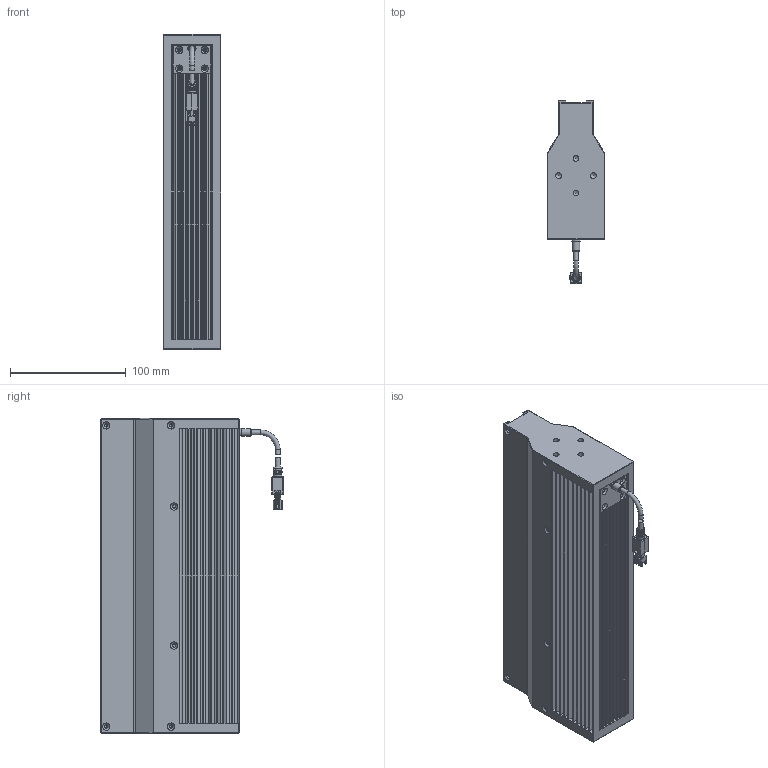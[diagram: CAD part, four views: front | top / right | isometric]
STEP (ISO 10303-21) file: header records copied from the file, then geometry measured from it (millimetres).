
FILE_DESCRIPTION (( 'STEP AP203' ), '1' );
FILE_NAME ('OPT-LSNL272-W-V1.0U尨砩芞.STEP', '2025-02-17T09:01:06', ( '' ), ( '' ), 'SwSTEP 2.0', 'SolidWorks 2016', '' );
FILE_SCHEMA (( 'CONFIG_CONTROL_DESIGN' ));
Length unit declared in the file: millimetre
Products named in the file (1): OPT-LSNL272-W-V1.0U尨砩芞
Bounding box: 50.02 x 158 x 272 mm (x, y, z)
Volume: 1001016.6 mm3; surface area: 338981.3 mm2
Topology: 9 solids, 14 shells, 991 faces, 2730 edges, 1755 vertices
Faces by surface type: plane 594, cylinder 326, cone 42, bspline 21, torus 8
Full cylindrical faces by diameter (mm): 1.1 x2, 1.4 x2, 2.5 x8, 3 x8, 3.4 x16, 3.5 x1, 4.1 x4, 5 x8, 5.8 x1, 6.5 x1, 7 x1, 7.5 x1
Entity records: 33639 total; most frequent: CARTESIAN_POINT 9456, ORIENTED_EDGE 5132, DIRECTION 4711, EDGE_CURVE 2566, VERTEX_POINT 1698, LINE 1665, VECTOR 1665, AXIS2_PLACEMENT_3D 1523
